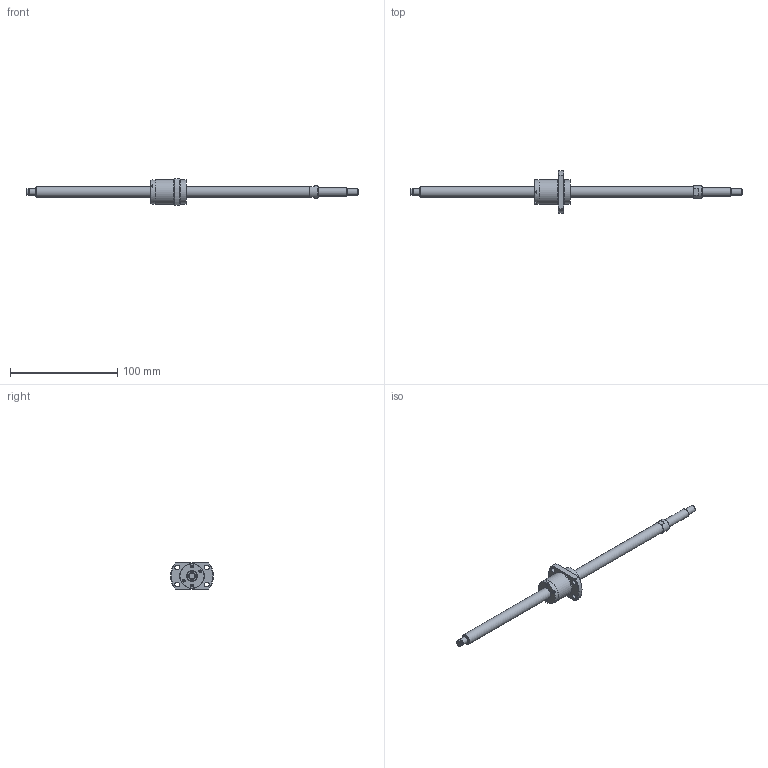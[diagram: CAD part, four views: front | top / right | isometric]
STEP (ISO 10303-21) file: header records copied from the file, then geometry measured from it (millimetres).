
FILE_DESCRIPTION(/* description */ ('STEP AP214'),/* implementation_level */ '2;1');
FILE_NAME(/* name */ 'SG1015-248R310C5B0X(107.5)',/* time_stamp */ '2026-07-24T15:18:20+02:00',/* author */ ('License CC BY-ND 4.0'),/* organization */ ('CADENAS'),/* preprocessor_version */ 'ST-DEVELOPER v20',/* originating_system */ 'PARTsolutions',/* authorisation */ ' ');
FILE_SCHEMA (('AUTOMOTIVE_DESIGN {1 0 10303 214 3 1 1}'));
Length unit declared in the file: millimetre
Products named in the file (3): SG1015-248R310C5B0X(107.5); SG1015-248R310C5B_shaft; SG1015 C5_nut
Assembly tree (2 placements, depth 2):
  SG1015-248R310C5B0X(107.5)
    SG1015-248R310C5B_shaft
    SG1015 C5_nut
Bounding box: 310 x 40 x 25 mm (x, y, z)
Volume: 35938.4 mm3; surface area: 15105.4 mm2
Topology: 2 solids, 2 shells, 107 faces, 242 edges, 157 vertices
Faces by surface type: plane 66, cylinder 27, cone 13, torus 1
Full cylindrical faces by diameter (mm): 2.25 x4, 4.5 x4, 5.7 x1, 6 x3, 8 x1, 10 x2, 11.5 x1, 22.5 x3, 23 x2
Entity records: 2921 total; most frequent: DIRECTION 500, CARTESIAN_POINT 498, ORIENTED_EDGE 418, EDGE_CURVE 209, AXIS2_PLACEMENT_3D 189, EDGE_LOOP 166, FACE_BOUND 166, VERTEX_POINT 155
